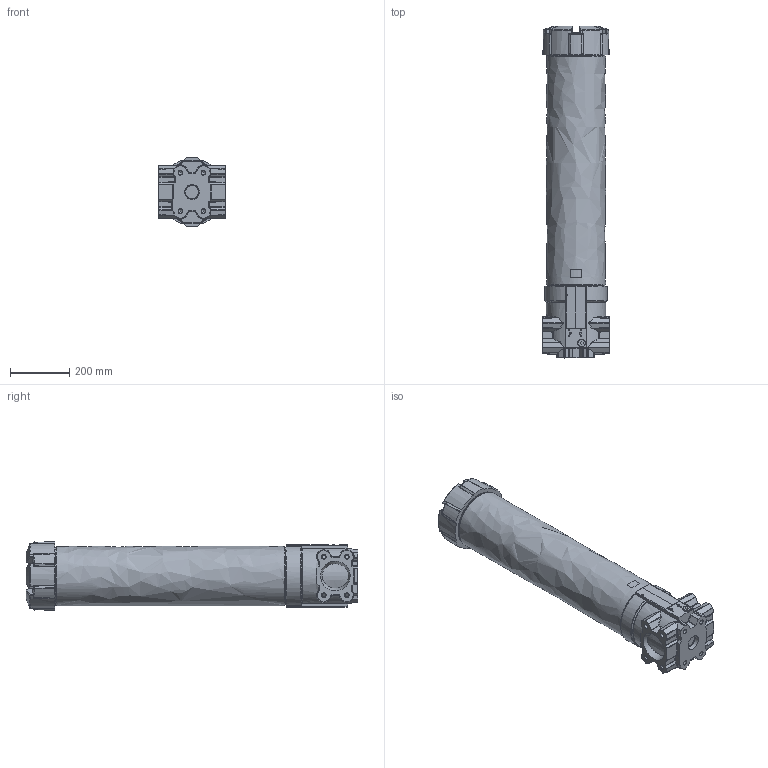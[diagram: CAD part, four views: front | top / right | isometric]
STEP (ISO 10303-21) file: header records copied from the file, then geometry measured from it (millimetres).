
FILE_DESCRIPTION((''),'2;1');
FILE_NAME('U:\Users\r.stiegele\FNL.stp','2014-03-04T07:56:02',('User'), ('SDRC'),'I-DEAS Master Series 9','UNIX','Yes');
FILE_SCHEMA(('AUTOMOTIVE_DESIGN { 1 0 10303 214 1 1 1 1 }'));
Length unit declared in the file: millimetre
Products named in the file (1): 19398101(302193)
Bounding box: 224 x 1122 x 233.64 mm (x, y, z)
Volume: 36307122.1 mm3; surface area: 889469.1 mm2
Topology: 1 solids, 6 shells, 1054 faces, 2509 edges, 1406 vertices
Faces by surface type: bspline 1054
Entity records: 40288 total; most frequent: CARTESIAN_POINT 26440, ORIENTED_EDGE 4826, EDGE_CURVE 2413, B_SPLINE_CURVE_WITH_KNOTS 1534, VERTEX_POINT 1406, EDGE_LOOP 1097, FACE_OUTER_BOUND 1054, ADVANCED_FACE 1054
